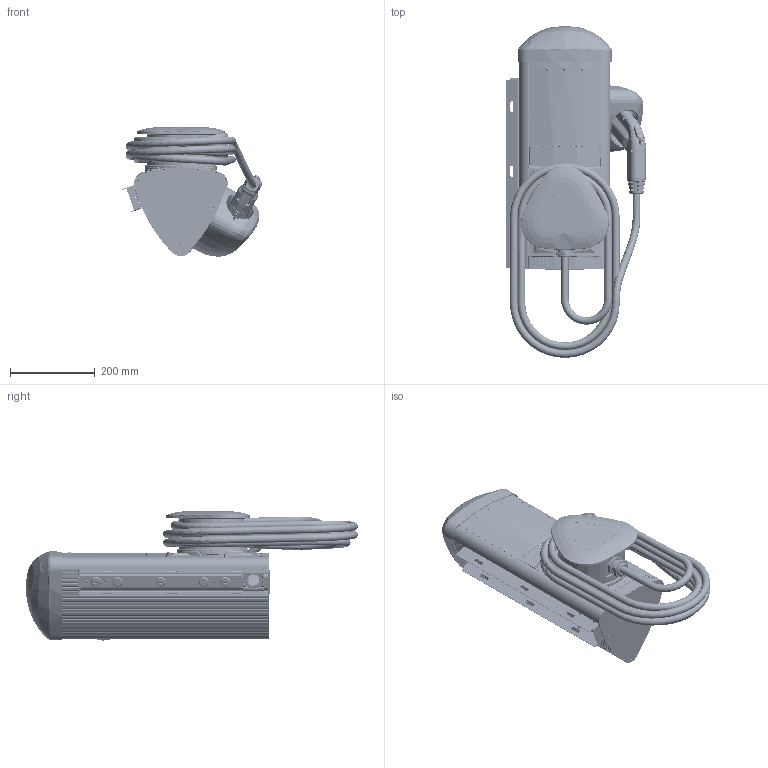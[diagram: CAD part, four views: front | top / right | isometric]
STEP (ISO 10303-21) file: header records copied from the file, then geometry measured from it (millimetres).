
FILE_DESCRIPTION((''),'2;1');
FILE_NAME('CT2000_POLE_MOUNT_BRKT_ASM','2013-04-19T',('Darren'),(''),'PRO/ENGINEER BY PARAMETRIC TECHNOLOGY CORPORATION, 2011330','PRO/ENGINEER BY PARAMETRIC TECHNOLOGY CORPORATION, 2011330','');
FILE_SCHEMA(('CONFIG_CONTROL_DESIGN'));
Products named in the file (62): 22-001072-01_POLE_EXTRU; 21-001013_BOTTOM_PLATE; 22-001016-06_FILLER_PANEL; 22-001001-06_POLE_EXTRU; PLATE-UL-LBL-CT2X00; RIVET-FLAT; 31-001086-01_POLE-WALL_CT2000_ASM; 22-001035-02_HOLSTER_FUNNEL; 22-001035-02_HOLSTER_FUNNEL_ASM; 22-001033-02_HOLSTER_COVER; 22-001032-02_HOLSTER_BASE; PEM_ITC-0420; 22-001032-02_HOLSTER_BASE_ASM; 7335-8523_02_PKG_MODEL_07-07-20; 31-001028-02_220V_HOLDER-C_ASM; 22-001027-01_PILOT_REAR; 22-001028-02_PILOT_FRONT; 22-001029-03_CABLE_HOLDER; PEM_IBC_M4; 22-001029-03_CABLE_HOLDER_ASM; 21-001022-01_VCABLE_BACKER; KJ_MAGNETICS_MM-C-16; SEALCON_CD32DR-BR; SEALCON_NM-32-BR; 31-001025-02_PILOT_FRONT_ASM; 22-001030-02_COVER; 20-001013-01_PILOT_LABEL; VEHICLE_CABLE_2000; 31-001025-02_PILOT_UNIT-C_ASM; 21-001015_POLE_BRACKET; PEM-SP-0420-1; 21-001015-RF2_ANGLE; 21-001015_POLE_BRACKET_ASM; 28-001012_PCB_DISPLAY; 3M_890-XX-014-10-803; KEYSTONE_8923_SPACER; LED_BI_T-175; 32-001002_PCBA_DISPLAY_ASM; HEX_SPACER_6-32; DISPLAY_CU16029ECPB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
Assembly tree (93 placements, depth 6):
  CT2000_POLE_MOUNT_BRKT_ASM
    31-001086-01_POLE-WALL_CT2000_ASM
      22-001072-01_POLE_EXTRU
      21-001013_BOTTOM_PLATE
      22-001016-06_FILLER_PANEL
      22-001001-06_POLE_EXTRU
      PLATE-UL-LBL-CT2X00
      RIVET-FLAT  x2
    31-001028-02_220V_HOLDER-C_ASM
      22-001035-02_HOLSTER_FUNNEL_ASM
        22-001035-02_HOLSTER_FUNNEL
      22-001033-02_HOLSTER_COVER
      22-001032-02_HOLSTER_BASE_ASM
        22-001032-02_HOLSTER_BASE
        PEM_ITC-0420  x3
      7335-8523_02_PKG_MODEL_07-07-20
    31-001025-02_PILOT_UNIT-C_ASM
      22-001027-01_PILOT_REAR
      22-001028-02_PILOT_FRONT
      31-001025-02_PILOT_FRONT_ASM
        22-001029-03_CABLE_HOLDER_ASM
          22-001029-03_CABLE_HOLDER
          PEM_IBC_M4  x2
        21-001022-01_VCABLE_BACKER
        KJ_MAGNETICS_MM-C-16  x2
        SEALCON_CD32DR-BR
        SEALCON_NM-32-BR
      22-001030-02_COVER
      20-001013-01_PILOT_LABEL
      VEHICLE_CABLE_2000
    21-001015_POLE_BRACKET_ASM
      21-001015_POLE_BRACKET
      PEM-SP-0420-1  x4
      21-001015-RF2_ANGLE
    31-001083-01_HEAD_ASSY_CT2000_ASM
      31-001084-01_UPPER_ASM
        31-001003_DISPLAY_ASM
          32-001002_PCBA_DISPLAY_ASM
            28-001012_PCB_DISPLAY
            3M_890-XX-014-10-803
            KEYSTONE_8923_SPACER  x3
            LED_BI_T-175  x3
          HEX_SPACER_6-32  x4
          30-001000_DISPLAY_ASM
            DISPLAY_CU16029ECPB
            3M_929850-01-14-XX
            DISPLAY_FILTER
          SCREW_6-32_PAN-PHIL_X_250  x8
        31-001081-01_UPPER_FRONT_PANEL_ASM
          22-001066-01_UPPER_FRONT_PANEL_ASM
            22-001066-01_UPPER_FRONT_PANEL
            PEM-PKB-632  x8
      20-001002_UPPER_LABEL
      20-001039-01_LOWER_LABEL_CT2000
      22-001009_UPPER_FRONT_WINDOW
      31-001001-03_TOP_CAP_ASM
        22-001005-04_TOP_CAP_ASM
          22-001005-04_TOP_CAP
          PEM_PKB-832  x4
      PILOT_SPACER_COMP_ASM
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Bounding box: 329 x 781.53 x 303.97 mm (x, y, z)
Volume: 7527099.6 mm3; surface area: 3257857.9 mm2
Topology: 75 solids, 75 shells, 11642 faces, 29019 edges, 17766 vertices
Faces by surface type: plane 3399, cylinder 3099, bspline 2908, cone 1204, torus 706, sphere 280, revolution 24, extrusion 22
Entity records: 543539 total; most frequent: CARTESIAN_POINT 304227, ORIENTED_EDGE 54496, DIRECTION 43117, EDGE_CURVE 27248, AXIS2_PLACEMENT_3D 16721, VERTEX_POINT 16667, EDGE_LOOP 11601, FACE_OUTER_BOUND 10961
